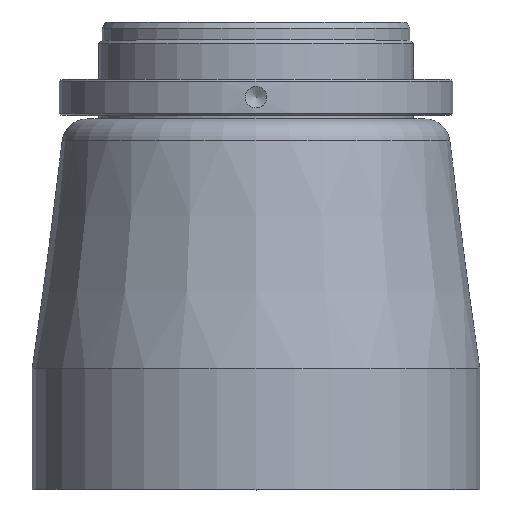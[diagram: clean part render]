
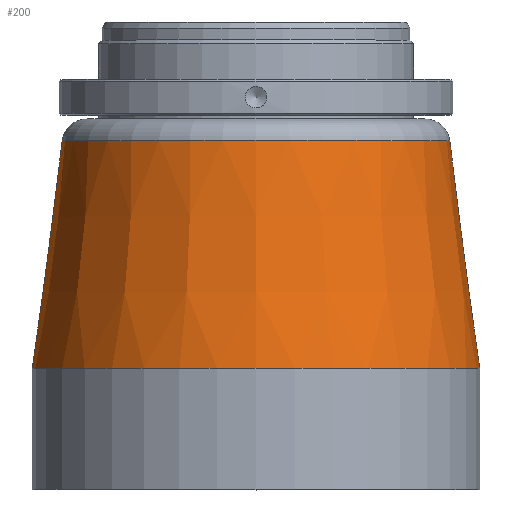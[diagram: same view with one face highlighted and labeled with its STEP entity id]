
A CAD part, top view. The second image highlights one B-rep face of the part: STEP entity #200.
In plain terms, the highlighted conical face has half-angle 7.5 degrees and reference radius 62.5 mm.
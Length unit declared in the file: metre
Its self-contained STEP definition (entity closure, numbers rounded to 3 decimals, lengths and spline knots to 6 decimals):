
#200=ADVANCED_FACE('',(#434,#435),#436,.T.);
#434=FACE_BOUND('',#705,.T.);
#435=FACE_OUTER_BOUND('',#706,.T.);
#436=CONICAL_SURFACE('',#707,0.0625,0.131);
#705=EDGE_LOOP('',(#1095));
#706=EDGE_LOOP('',(#1096));
#707=AXIS2_PLACEMENT_3D('',#1097,#1098,#1099);
#1095=ORIENTED_EDGE('',*,*,#1351,.F.);
#1096=ORIENTED_EDGE('',*,*,#1409,.T.);
#1097=CARTESIAN_POINT('',(-0.029395,0.016329,0.0));
#1098=DIRECTION('',(0.0,-1.0,-0.0));
#1099=DIRECTION('',(0.0,0.0,-1.0));
#1351=EDGE_CURVE('',#1570,#1570,#1571,.T.);
#1409=EDGE_CURVE('',#1653,#1653,#1654,.T.);
#1570=VERTEX_POINT('',#1912);
#1571=CIRCLE('',#1913,0.054129);
#1653=VERTEX_POINT('',#2115);
#1654=CIRCLE('',#2116,0.0625);
#1912=CARTESIAN_POINT('',(-0.029395,0.079915,0.054129));
#1913=AXIS2_PLACEMENT_3D('',#2282,#2283,#2284);
#2115=CARTESIAN_POINT('',(-0.029395,0.016329,0.0625));
#2116=AXIS2_PLACEMENT_3D('',#2357,#2358,#2359);
#2282=CARTESIAN_POINT('',(-0.029395,0.079915,0.0));
#2283=DIRECTION('',(0.0,1.0,0.0));
#2284=DIRECTION('',(0.0,0.0,1.0));
#2357=CARTESIAN_POINT('',(-0.029395,0.016329,0.0));
#2358=DIRECTION('',(0.0,1.0,0.0));
#2359=DIRECTION('',(0.0,0.0,1.0));
